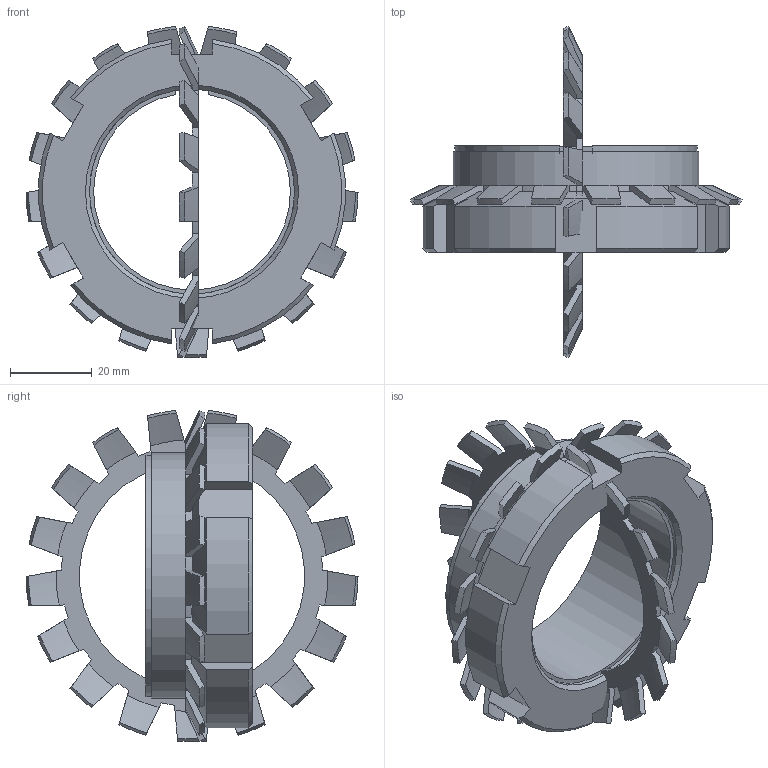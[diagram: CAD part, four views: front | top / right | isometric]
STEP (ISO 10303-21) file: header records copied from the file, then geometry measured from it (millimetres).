
FILE_DESCRIPTION( ( 'Unknown' ), '1' );
FILE_NAME( 'C:/Dokumente und Einstellungen/Sven/Desktop/homepage/cad - homepage/KBS51/KBS 51 - 48 x 60.stp', 'Unknown', ( 'Unknown' ), ( 'Unknown' ), 'XStep 1.0', 'Unknown', ' ' );
FILE_SCHEMA( ( 'automotive_design' ) );
Length unit declared in the file: millimetre
Products named in the file (3): Assem1; KBS 51 - 48 x 60; 08570118_locking_plate_din_5406_mb_11_2_14a
Bounding box: 81 x 81 x 80.79 mm (x, y, z)
Volume: 91543.1 mm3; surface area: 38575.7 mm2
Topology: 4 solids, 4 shells, 308 faces, 892 edges, 592 vertices
Faces by surface type: plane 132, cone 122, cylinder 54
Full cylindrical faces by diameter (mm): 50 x2, 60 x2
Entity records: 7592 total; most frequent: CARTESIAN_POINT 1149, ORIENTED_EDGE 880, DIRECTION 822, EDGE_CURVE 440, STYLED_ITEM 426, PRESENTATION_STYLE_ASSIGNMENT 426, COLOUR_RGB 426, AXIS2_PLACEMENT_3D 325
